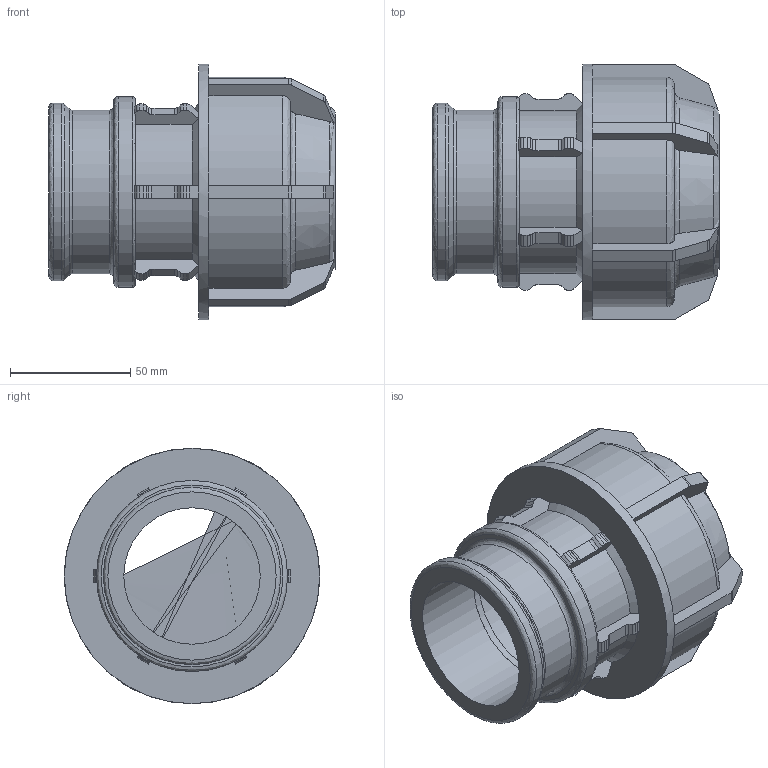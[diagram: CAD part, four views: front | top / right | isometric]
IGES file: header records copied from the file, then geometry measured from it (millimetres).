
Global section: file name: 140300063020.ipt; native system: Autodesk Inventor 2015; preprocessor: unknown; author: KIM; date: 20180409.131015; units: millimetre
Bounding box: 119 x 106 x 106 mm (x, y, z)
Volume: 266466.7 mm3; surface area: 72227.1 mm2
Topology: 1 solids, 1 shells, 261 faces, 737 edges, 476 vertices
Faces by surface type: plane 160, cylinder 52, revolution 36, cone 13
Full cylindrical faces by diameter (mm): 67.987 x1, 73.653 x1, 79.318 x1, 106 x1
